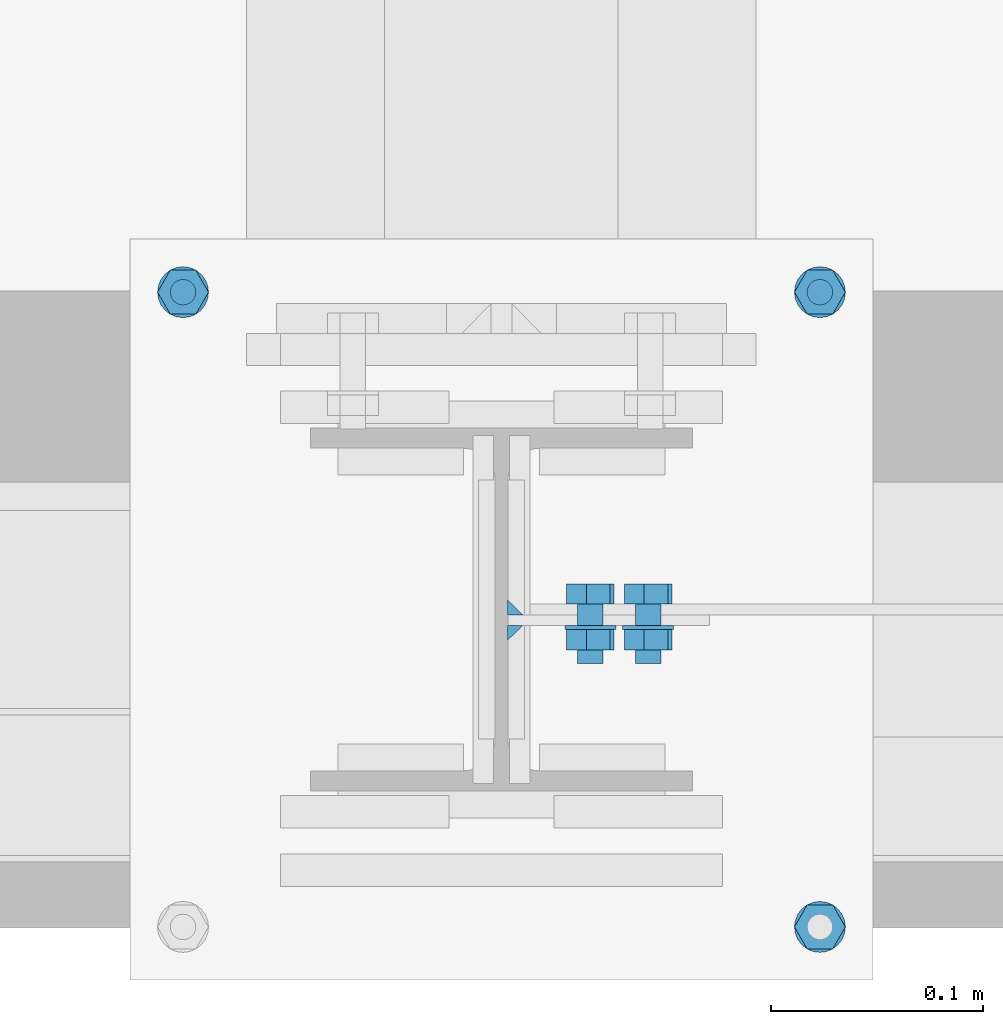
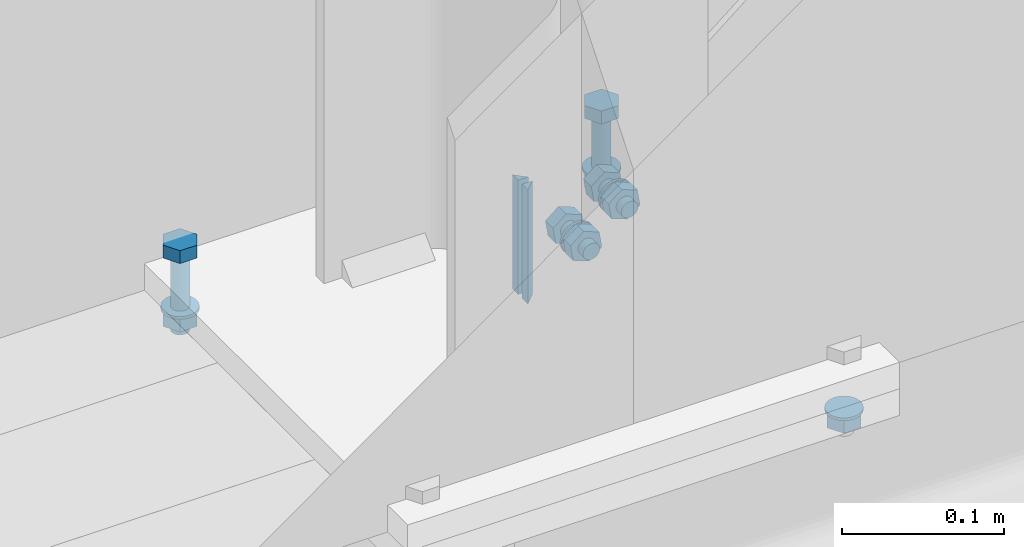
# One storey, part 51 of 66: 18 mechanical fasteners, 2 fasteners.
"""IFC4 building model written with IfcOpenShell, lengths in metres."""

import ifcopenshell
import ifcopenshell.guid

model = None  # the IFC model being written
_history = None  # IfcOwnerHistory: only IFC2X3 demands one
_inside = {}  # id of a spatial element -> (the spatial element, [elements in it])
_under = {}  # id of a project, library or spatial element -> (it, [spatial elements below it])
_declared = {}  # id of a project -> (the project, [libraries it declares])
_typed = {}  # id of a type object -> (the type object, [elements of that type])
_made_of = {}  # id of a material, layer set ... -> (it, [elements and type objects made of it])


def new_model(schema):
    """Start an empty IFC model of exactly this schema.

    Asked for "IFC4X3", IfcOpenShell would pick the latest addendum, in which some entities
    have other attributes; the version numbers below select the first issue.
    IFC2X3 requires an IfcOwnerHistory on every rooted entity: one is made here for all.
    """
    global model, _history
    if schema == "IFC4X3":
        model = ifcopenshell.file(schema_version=(4, 3, 0, 0))
    else:
        model = ifcopenshell.file(schema=schema)
    _inside.clear()
    _under.clear()
    _declared.clear()
    _typed.clear()
    _made_of.clear()
    _history = None
    if model.schema == "IFC2X3":
        org = make("IfcOrganization", Name="unknown")
        user = make(
            "IfcPersonAndOrganization",
            ThePerson=make("IfcPerson", FamilyName="unknown"),
            TheOrganization=org,
        )
        app = make(
            "IfcApplication",
            ApplicationDeveloper=org,
            Version="unknown",
            ApplicationFullName="unknown",
            ApplicationIdentifier="unknown",
        )
        _history = make(
            "IfcOwnerHistory",
            OwningUser=user,
            OwningApplication=app,
            ChangeAction="ADDED",
            CreationDate=0,
        )
    return model


def make(cls, **values):
    """One entity of the class cls with the attributes given. An attribute that is None is left unset."""
    return model.create_entity(
        cls, **{name: value for name, value in values.items() if value is not None}
    )


def rooted(cls, **values):
    """An entity with a GlobalId (a new one), such as an element, a storey or a relation."""
    return make(cls, GlobalId=ifcopenshell.guid.new(), OwnerHistory=_history, **values)


def si_unit(unit_type, name, prefix=None):
    """IfcSIUnit, for example si_unit("LENGTHUNIT", "METRE", prefix="MILLI")."""
    return make("IfcSIUnit", UnitType=unit_type, Prefix=prefix, Name=name)


def assignment(units):
    """IfcUnitAssignment: the units of a project."""
    return None if units is None else make("IfcUnitAssignment", Units=units)


def point(xyz):
    """IfcCartesianPoint."""
    return None if xyz is None else make("IfcCartesianPoint", Coordinates=xyz)


def direction(xyz):
    """IfcDirection."""
    return None if xyz is None else make("IfcDirection", DirectionRatios=xyz)


def frame(location, z_axis=None, x_axis=None):
    """IfcAxis2Placement3D, a coordinate frame: its origin and axes. An axis left out is left unset."""
    return make(
        "IfcAxis2Placement3D",
        Location=point(location),
        Axis=direction(z_axis),
        RefDirection=direction(x_axis),
    )


def origin_with_axes():
    """The frame at (0, 0, 0) with the z axis (0, 0, 1) and the x axis (1, 0, 0) written out."""
    return frame((0.0, 0.0, 0.0), z_axis=(0.0, 0.0, 1.0), x_axis=(1.0, 0.0, 0.0))


def place(relative_to, where):
    """IfcLocalPlacement: puts the frame where relative to a parent placement (None: the world)."""
    return make(
        "IfcLocalPlacement", PlacementRelTo=relative_to, RelativePlacement=where
    )


def context(
    kind, dimensions, precision=None, world=None, true_north=None, identifier=None
):
    """IfcGeometricRepresentationContext, for example the 3D "Model" context."""
    return make(
        "IfcGeometricRepresentationContext",
        ContextIdentifier=identifier,
        ContextType=kind,
        CoordinateSpaceDimension=dimensions,
        Precision=precision,
        WorldCoordinateSystem=world,
        TrueNorth=true_north,
    )


def project(units=None, contexts=None):
    """IfcProject with its units and contexts."""
    return rooted(
        "IfcProject",
        Name="project",
        RepresentationContexts=contexts,
        UnitsInContext=assignment(units),
    )


def spatial(cls, under=None, at=None, **own):
    """A site, building, storey or space (cls), placed at a placement, below another one or the project."""
    s = rooted(cls, ObjectPlacement=at, **own)
    if under is not None:
        _under.setdefault(under.id(), (under, []))[1].append(s)
    return s


def polyline(points):
    """IfcPolyline through the points."""
    return make("IfcPolyline", Points=[point(p) for p in points])


def outline(outer, holes=None, kind="AREA"):
    """IfcArbitraryClosedProfileDef: a profile drawn as a closed curve; with holes, ...WithVoids."""
    if holes is None:
        return make("IfcArbitraryClosedProfileDef", ProfileType=kind, OuterCurve=outer)
    return make(
        "IfcArbitraryProfileDefWithVoids",
        ProfileType=kind,
        OuterCurve=outer,
        InnerCurves=holes,
    )


def extrude(swept, where, along, depth):
    """IfcExtrudedAreaSolid: the profile swept, set in the frame where, extruded along a direction by depth."""
    return make(
        "IfcExtrudedAreaSolid",
        SweptArea=swept,
        Position=where,
        ExtrudedDirection=direction(along),
        Depth=depth,
    )


def shape(context_of_items, identifier, shape_type, items):
    """IfcShapeRepresentation: the items that make up one representation, for example the "Body"."""
    return make(
        "IfcShapeRepresentation",
        ContextOfItems=context_of_items,
        RepresentationIdentifier=identifier,
        RepresentationType=shape_type,
        Items=items,
    )


def made_of(thing, what):
    """Note that an element or type object is made of a material, layer set ...; save() writes the relation."""
    if what is not None:
        _made_of.setdefault(what.id(), (what, []))[1].append(thing)
    return thing


def type_object(cls, material=None, **own):
    """A type object (cls), such as IfcWallType, which elements share."""
    return made_of(rooted(cls, **own), material)


def element(
    cls,
    number,
    at=None,
    inside=None,
    cuts=None,
    type_object=None,
    material=None,
    context=None,
    identifier="Body",
    shape_type=None,
    held_by="IfcProductDefinitionShape",
    body=None,
    shapes=None,
    **own,
):
    """One element of the class cls, such as IfcWall. Its Tag is "e" and its number.

    at: its placement. inside: the storey or other place that contains it. cuts: it is an
    opening in that element (IfcRelVoidsElement). A single representation is given by context,
    identifier, shape_type and body (its items); several are given by shapes. held_by: the class
    of the entity that holds the representations. save() writes the other relations.
    """
    e = rooted(cls, Tag="e%d" % number, ObjectPlacement=at, **own)
    if body is not None:
        shapes = [shape(context, identifier, shape_type, body)]
    if shapes is not None:
        e.Representation = make(held_by, Representations=shapes)
    if inside is not None:
        _inside.setdefault(inside.id(), (inside, []))[1].append(e)
    if cuts is not None:
        rooted(
            "IfcRelVoidsElement", RelatingBuildingElement=cuts, RelatedOpeningElement=e
        )
    if type_object is not None:
        _typed.setdefault(type_object.id(), (type_object, []))[1].append(e)
    return made_of(e, material)


def aggregate(whole, parts):
    """IfcRelAggregates: a whole, such as a stair, and the parts it consists of."""
    return rooted("IfcRelAggregates", RelatingObject=whole, RelatedObjects=parts)


def save(model, path):
    """Write the relations noted so far, then the file.

    IfcRelAggregates (storeys below a building ...), IfcRelContainedInSpatialStructure (elements
    in a storey), IfcRelDefinesByType, IfcRelAssociatesMaterial and IfcRelDeclares: one each for
    every whole, place, type object, material and project.
    """
    for whole, parts in _under.values():
        aggregate(whole, parts)
    for where, things in _inside.values():
        rooted(
            "IfcRelContainedInSpatialStructure",
            RelatedElements=things,
            RelatingStructure=where,
        )
    for kind, things in _typed.values():
        rooted("IfcRelDefinesByType", RelatedObjects=things, RelatingType=kind)
    for what, things in _made_of.values():
        rooted("IfcRelAssociatesMaterial", RelatedObjects=things, RelatingMaterial=what)
    for by, libraries in _declared.values():
        rooted("IfcRelDeclares", RelatingContext=by, RelatedDefinitions=libraries)
    model.write(path)


model = new_model("IFC4")

# Units and contexts
model_context = context("Model", 3, precision=1e-05, world=origin_with_axes())
ifc_project = project(units=[si_unit("LENGTHUNIT", "METRE"), si_unit("AREAUNIT", "SQUARE_METRE"), si_unit("VOLUMEUNIT", "CUBIC_METRE"), si_unit("MASSUNIT", "GRAM", prefix="KILO"), si_unit("TIMEUNIT", "SECOND"), si_unit("PLANEANGLEUNIT", "RADIAN"), si_unit("SOLIDANGLEUNIT", "STERADIAN"), si_unit("THERMODYNAMICTEMPERATUREUNIT", "DEGREE_CELSIUS")], contexts=[model_context])

# Site, building, storey
placement_1 = place(None, origin_with_axes())
site = spatial("IfcSite", under=ifc_project, at=placement_1, Name="Italia", CompositionType="ELEMENT")
building = spatial("IfcBuilding", under=site, at=placement_1, Name="Uffici", CompositionType="ELEMENT")
storey_placement = place(None, frame((0.0, 0.0, 3.299999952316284), z_axis=(0.0, 0.0, 1.0), x_axis=(1.0, 0.0, 0.0)))
storey = spatial("IfcBuildingStorey", under=building, at=storey_placement, Name="Storey 1", CompositionType="ELEMENT", Elevation=3.299999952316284)

# Mechanical fasteners
mechanical_fastener_type_1 = type_object("IfcMechanicalFastenerType", Name="Collegamenti 0101_0201 0102_0202 0103_0203 0104_0204 0105_0205", PredefinedType="BOLT")
placement_2 = place(placement_1, origin_with_axes())
mechanical_fastener_1_placement = place(placement_2, origin_with_axes())
element("IfcMechanicalFastener", 1, at=mechanical_fastener_1_placement, inside=storey, type_object=mechanical_fastener_type_1, Name="Collegamenti 0101_0201 0102_0202 0103_0203 0104_0204 0105_0205", NominalDiameter=0.0119998, context=model_context, shape_type="SweptSolid", body=[
    extrude(outline(polyline([(0.0, 0.0), (0.0, 0.0120001), (0.0103923, 0.0179996), (0.0207846, 0.0120001), (0.0207846, 0.0), (0.0103923, -0.00599957), (0.0, 0.0)])), frame((9.611, -0.159892, 3.2684), z_axis=(0.0, 0.0, 1.0), x_axis=(0.0, 1.0, 0.0)), (0.0, 0.0, 1.0), 0.00959992),
])
mechanical_fastener_type_2 = type_object("IfcMechanicalFastenerType", Name="Collegamenti 0101_0201 0102_0202 0103_0203 0104_0204 0105_0205", PredefinedType="BOLT")
mechanical_fastener_2_placement = place(placement_2, origin_with_axes())
element("IfcMechanicalFastener", 2, at=mechanical_fastener_2_placement, inside=storey, type_object=mechanical_fastener_type_2, Name="Collegamenti 0101_0201 0102_0202 0103_0203 0104_0204 0105_0205", NominalDiameter=0.024, context=model_context, shape_type="SweptSolid", body=[
    extrude(outline(polyline([(0.0, 0.0), (-0.000408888, -0.00310612), (-0.00160769, -0.00599957), (-0.00351471, -0.00848484), (-0.006, -0.0103922), (-0.00889416, -0.011591), (-0.012, -0.0120001), (-0.0151058, -0.011591), (-0.018, -0.0103922), (-0.0204853, -0.00848484), (-0.0223923, -0.00599957), (-0.0235911, -0.00310612), (-0.024, 0.0), (-0.0235911, 0.00310612), (-0.0223923, 0.00599957), (-0.0204853, 0.00848484), (-0.018, 0.0103922), (-0.0151058, 0.011591), (-0.012, 0.0120001), (-0.00889416, 0.011591), (-0.006, 0.0103922), (-0.00351471, 0.00848484), (-0.00160769, 0.00599957), (-0.000408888, 0.00310612), (0.0, 0.0)])), frame((9.605, -0.1375, 3.278), z_axis=(0.0, 0.0, 1.0), x_axis=(0.0, 1.0, 0.0)), (0.0, 0.0, 1.0), 0.00200009),
])
mechanical_fastener_type_3 = type_object("IfcMechanicalFastenerType", Name="Collegamenti 0101_0201 0102_0202 0103_0203 0104_0204 0105_0205", PredefinedType="BOLT")
mechanical_fastener_3_placement = place(placement_2, origin_with_axes())
element("IfcMechanicalFastener", 3, at=mechanical_fastener_3_placement, inside=storey, type_object=mechanical_fastener_type_3, Name="Collegamenti 0101_0201 0102_0202 0103_0203 0104_0204 0105_0205", NominalDiameter=0.0119998, context=model_context, shape_type="SweptSolid", body=[
    extrude(outline(polyline([(0.0, 0.0), (0.0, 0.0120001), (0.0103923, 0.0179996), (0.0207846, 0.0120001), (0.0207846, 0.0), (0.0103923, -0.00599957), (0.0, 0.0)])), frame((9.311, 0.139108, 3.32), z_axis=(0.0, 0.0, 1.0), x_axis=(0.0, 1.0, 0.0)), (0.0, 0.0, 1.0), 0.00959992),
])
mechanical_fastener_type_4 = type_object("IfcMechanicalFastenerType", Name="Collegamenti 0101_0201 0102_0202 0103_0203 0104_0204 0105_0205", PredefinedType="BOLT")
mechanical_fastener_4_placement = place(placement_2, origin_with_axes())
element("IfcMechanicalFastener", 4, at=mechanical_fastener_4_placement, inside=storey, type_object=mechanical_fastener_type_4, Name="Collegamenti 0101_0201 0102_0202 0103_0203 0104_0204 0105_0205", NominalDiameter=0.012, context=model_context, shape_type="SweptSolid", body=[
    extrude(outline(polyline([(0.0, 0.0), (-0.000204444, -0.00155258), (-0.000803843, -0.00300026), (-0.00175735, -0.0042429), (-0.00299999, -0.00519657), (-0.00444709, -0.00579548), (-0.006, -0.00599957), (-0.00755291, -0.00579548), (-0.009, -0.00519657), (-0.0102426, -0.0042429), (-0.0111962, -0.00300026), (-0.0117956, -0.00155258), (-0.012, 0.0), (-0.0117956, 0.00155258), (-0.0111962, 0.00300026), (-0.0102426, 0.0042429), (-0.009, 0.00519657), (-0.00755291, 0.00579548), (-0.006, 0.00599957), (-0.00444709, 0.00579548), (-0.00299999, 0.00519657), (-0.00175735, 0.0042429), (-0.000803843, 0.00300026), (-0.000204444, 0.00155258), (0.0, 0.0)])), frame((9.305, 0.1555, 3.262), z_axis=(0.0, 0.0, 1.0), x_axis=(0.0, 1.0, 0.0)), (0.0, 0.0, 1.0), 0.0580001),
])
mechanical_fastener_type_5 = type_object("IfcMechanicalFastenerType", Name="Collegamenti 0101_0201 0102_0202 0103_0203 0104_0204 0105_0205", PredefinedType="BOLT")
mechanical_fastener_5_placement = place(placement_2, origin_with_axes())
element("IfcMechanicalFastener", 5, at=mechanical_fastener_5_placement, inside=storey, type_object=mechanical_fastener_type_5, Name="Collegamenti 0101_0201 0102_0202 0103_0203 0104_0204 0105_0205", NominalDiameter=0.0119998, context=model_context, shape_type="SweptSolid", body=[
    extrude(outline(polyline([(0.0, 0.0), (0.0, 0.0120001), (0.0103923, 0.0179996), (0.0207846, 0.0120001), (0.0207846, 0.0), (0.0103923, -0.00599957), (0.0, 0.0)])), frame((9.311, 0.139108, 3.2684), z_axis=(0.0, 0.0, 1.0), x_axis=(0.0, 1.0, 0.0)), (0.0, 0.0, 1.0), 0.00959992),
])
mechanical_fastener_type_6 = type_object("IfcMechanicalFastenerType", Name="Collegamenti 0101_0201 0102_0202 0103_0203 0104_0204 0105_0205", PredefinedType="BOLT")
mechanical_fastener_6_placement = place(placement_2, origin_with_axes())
element("IfcMechanicalFastener", 6, at=mechanical_fastener_6_placement, inside=storey, type_object=mechanical_fastener_type_6, Name="Collegamenti 0101_0201 0102_0202 0103_0203 0104_0204 0105_0205", NominalDiameter=0.024, context=model_context, shape_type="SweptSolid", body=[
    extrude(outline(polyline([(0.0, 0.0), (-0.000408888, -0.00310612), (-0.00160769, -0.00599957), (-0.00351471, -0.00848484), (-0.006, -0.0103922), (-0.00889416, -0.011591), (-0.012, -0.0120001), (-0.0151058, -0.011591), (-0.018, -0.0103922), (-0.0204853, -0.00848484), (-0.0223923, -0.00599957), (-0.0235911, -0.00310612), (-0.024, 0.0), (-0.0235911, 0.00310612), (-0.0223923, 0.00599957), (-0.0204853, 0.00848484), (-0.018, 0.0103922), (-0.0151058, 0.011591), (-0.012, 0.0120001), (-0.00889416, 0.011591), (-0.006, 0.0103922), (-0.00351471, 0.00848484), (-0.00160769, 0.00599957), (-0.000408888, 0.00310612), (0.0, 0.0)])), frame((9.305, 0.1615, 3.278), z_axis=(0.0, 0.0, 1.0), x_axis=(0.0, 1.0, 0.0)), (0.0, 0.0, 1.0), 0.00200009),
])
mechanical_fastener_type_7 = type_object("IfcMechanicalFastenerType", Name="Collegamenti 0101_0201 0102_0202 0103_0203 0104_0204 0105_0205", PredefinedType="BOLT")
mechanical_fastener_7_placement = place(placement_2, origin_with_axes())
element("IfcMechanicalFastener", 7, at=mechanical_fastener_7_placement, inside=storey, type_object=mechanical_fastener_type_7, Name="Collegamenti 0101_0201 0102_0202 0103_0203 0104_0204 0105_0205", NominalDiameter=0.0119998, context=model_context, shape_type="SweptSolid", body=[
    extrude(outline(polyline([(0.0, 0.0), (0.0, 0.0120001), (0.0103923, 0.0179996), (0.0207846, 0.0120001), (0.0207846, 0.0), (0.0103923, -0.00599957), (0.0, 0.0)])), frame((9.611, 0.139108, 3.32), z_axis=(0.0, 0.0, 1.0), x_axis=(0.0, 1.0, 0.0)), (0.0, 0.0, 1.0), 0.00959992),
])
mechanical_fastener_type_8 = type_object("IfcMechanicalFastenerType", Name="Collegamenti 0101_0201 0102_0202 0103_0203 0104_0204 0105_0205", PredefinedType="BOLT")
mechanical_fastener_8_placement = place(placement_2, origin_with_axes())
element("IfcMechanicalFastener", 8, at=mechanical_fastener_8_placement, inside=storey, type_object=mechanical_fastener_type_8, Name="Collegamenti 0101_0201 0102_0202 0103_0203 0104_0204 0105_0205", NominalDiameter=0.012, context=model_context, shape_type="SweptSolid", body=[
    extrude(outline(polyline([(0.0, 0.0), (-0.000204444, -0.00155258), (-0.000803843, -0.00300026), (-0.00175735, -0.0042429), (-0.00299999, -0.00519657), (-0.00444709, -0.00579548), (-0.006, -0.00599957), (-0.00755291, -0.00579548), (-0.009, -0.00519657), (-0.0102426, -0.0042429), (-0.0111962, -0.00300026), (-0.0117956, -0.00155258), (-0.012, 0.0), (-0.0117956, 0.00155258), (-0.0111962, 0.00300026), (-0.0102426, 0.0042429), (-0.009, 0.00519657), (-0.00755291, 0.00579548), (-0.006, 0.00599957), (-0.00444709, 0.00579548), (-0.00299999, 0.00519657), (-0.00175735, 0.0042429), (-0.000803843, 0.00300026), (-0.000204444, 0.00155258), (0.0, 0.0)])), frame((9.605, 0.1555, 3.262), z_axis=(0.0, 0.0, 1.0), x_axis=(0.0, 1.0, 0.0)), (0.0, 0.0, 1.0), 0.0580001),
])
mechanical_fastener_type_9 = type_object("IfcMechanicalFastenerType", Name="Collegamenti 0101_0201 0102_0202 0103_0203 0104_0204 0105_0205", PredefinedType="BOLT")
mechanical_fastener_9_placement = place(placement_2, origin_with_axes())
element("IfcMechanicalFastener", 9, at=mechanical_fastener_9_placement, inside=storey, type_object=mechanical_fastener_type_9, Name="Collegamenti 0101_0201 0102_0202 0103_0203 0104_0204 0105_0205", NominalDiameter=0.0119998, context=model_context, shape_type="SweptSolid", body=[
    extrude(outline(polyline([(0.0, 0.0), (0.0, 0.0120001), (0.0103923, 0.0179996), (0.0207846, 0.0120001), (0.0207846, 0.0), (0.0103923, -0.00599957), (0.0, 0.0)])), frame((9.611, 0.139108, 3.2684), z_axis=(0.0, 0.0, 1.0), x_axis=(0.0, 1.0, 0.0)), (0.0, 0.0, 1.0), 0.00959992),
])
mechanical_fastener_type_10 = type_object("IfcMechanicalFastenerType", Name="Collegamenti 0101_0201 0102_0202 0103_0203 0104_0204 0105_0205", PredefinedType="BOLT")
mechanical_fastener_10_placement = place(placement_2, origin_with_axes())
element("IfcMechanicalFastener", 10, at=mechanical_fastener_10_placement, inside=storey, type_object=mechanical_fastener_type_10, Name="Collegamenti 0101_0201 0102_0202 0103_0203 0104_0204 0105_0205", NominalDiameter=0.024, context=model_context, shape_type="SweptSolid", body=[
    extrude(outline(polyline([(0.0, 0.0), (-0.000408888, -0.00310612), (-0.00160769, -0.00599957), (-0.00351471, -0.00848484), (-0.006, -0.0103922), (-0.00889416, -0.011591), (-0.012, -0.0120001), (-0.0151058, -0.011591), (-0.018, -0.0103922), (-0.0204853, -0.00848484), (-0.0223923, -0.00599957), (-0.0235911, -0.00310612), (-0.024, 0.0), (-0.0235911, 0.00310612), (-0.0223923, 0.00599957), (-0.0204853, 0.00848484), (-0.018, 0.0103922), (-0.0151058, 0.011591), (-0.012, 0.0120001), (-0.00889416, 0.011591), (-0.006, 0.0103922), (-0.00351471, 0.00848484), (-0.00160769, 0.00599957), (-0.000408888, 0.00310612), (0.0, 0.0)])), frame((9.605, 0.1615, 3.278), z_axis=(0.0, 0.0, 1.0), x_axis=(0.0, 1.0, 0.0)), (0.0, 0.0, 1.0), 0.00200009),
])
mechanical_fastener_type_11 = type_object("IfcMechanicalFastenerType", Name="Collegamento 0104_0205", PredefinedType="BOLT")
mechanical_fastener_11_placement = place(placement_2, origin_with_axes())
element("IfcMechanicalFastener", 11, at=mechanical_fastener_11_placement, inside=storey, type_object=mechanical_fastener_type_11, Name="Collegamento 0104_0205", NominalDiameter=0.0119995, context=model_context, shape_type="SweptSolid", body=[
    extrude(outline(polyline([(0.0, 0.0), (0.00932503, -0.00755262), (0.0205288, -0.00325346), (0.0224066, 0.0085988), (0.0130816, 0.0161514), (0.00187874, 0.011852), (0.0, 0.0)])), frame((9.50806, 0.0025, 3.35532), z_axis=(0.0, 1.0, 0.0), x_axis=(-1.0, 0.0, 0.0)), (0.0, 0.0, 1.0), 0.0096),
])
mechanical_fastener_type_12 = type_object("IfcMechanicalFastenerType", Name="Collegamento 0104_0205", PredefinedType="BOLT")
mechanical_fastener_12_placement = place(placement_2, origin_with_axes())
element("IfcMechanicalFastener", 12, at=mechanical_fastener_12_placement, inside=storey, type_object=mechanical_fastener_type_12, Name="Collegamento 0104_0205", NominalDiameter=0.012, context=model_context, shape_type="SweptSolid", body=[
    extrude(outline(polyline([(0.0, 0.0), (-0.000204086, -0.00155282), (-0.000802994, -0.00300002), (-0.00175667, -0.00424266), (-0.00299931, -0.00519609), (-0.00444698, -0.00579548), (-0.00599957, -0.00600004), (-0.00755215, -0.00579548), (-0.00899982, -0.00519609), (-0.0102425, -0.00424266), (-0.0111961, -0.00300002), (-0.011795, -0.00155282), (-0.0119991, 0.0), (-0.011795, 0.00155282), (-0.0111961, 0.00300002), (-0.0102425, 0.00424266), (-0.00899982, 0.00519609), (-0.00755215, 0.00579548), (-0.00599957, 0.00600004), (-0.00444698, 0.00579548), (-0.00299931, 0.00519609), (-0.00175667, 0.00424266), (-0.000802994, 0.00300002), (-0.000204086, 0.00155282), (0.0, 0.0)])), frame((9.49086, -0.0255, 3.35962), z_axis=(0.0, 1.0, 0.0), x_axis=(-1.0, 0.0, 0.0)), (0.0, 0.0, 1.0), 0.028),
])
mechanical_fastener_type_13 = type_object("IfcMechanicalFastenerType", Name="Collegamento 0104_0205", PredefinedType="BOLT")
mechanical_fastener_13_placement = place(placement_2, origin_with_axes())
element("IfcMechanicalFastener", 13, at=mechanical_fastener_13_placement, inside=storey, type_object=mechanical_fastener_type_13, Name="Collegamento 0104_0205", NominalDiameter=0.0119995, context=model_context, shape_type="SweptSolid", body=[
    extrude(outline(polyline([(0.0, 0.0), (0.00932503, -0.00755262), (0.0205288, -0.00325346), (0.0224066, 0.0085988), (0.0130816, 0.0161514), (0.00187874, 0.011852), (0.0, 0.0)])), frame((9.50806, -0.0191, 3.35532), z_axis=(0.0, 1.0, 0.0), x_axis=(-1.0, 0.0, 0.0)), (0.0, 0.0, 1.0), 0.0096),
])
mechanical_fastener_type_14 = type_object("IfcMechanicalFastenerType", Name="Collegamento 0104_0205", PredefinedType="BOLT")
mechanical_fastener_14_placement = place(placement_2, origin_with_axes())
element("IfcMechanicalFastener", 14, at=mechanical_fastener_14_placement, inside=storey, type_object=mechanical_fastener_type_14, Name="Collegamento 0104_0205", NominalDiameter=0.024, context=model_context, shape_type="SweptSolid", body=[
    extrude(outline(polyline([(0.0, 0.0), (-0.000409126, -0.00310588), (-0.00160789, -0.00600004), (-0.00351524, -0.00848532), (-0.00600052, -0.0103922), (-0.00889397, -0.0115912), (-0.0120001, -0.0120001), (-0.0151062, -0.0115912), (-0.0179996, -0.0103922), (-0.0204849, -0.00848532), (-0.0223923, -0.00600004), (-0.023591, -0.00310588), (-0.0240002, 0.0), (-0.023591, 0.00310588), (-0.0223923, 0.00600004), (-0.0204849, 0.00848532), (-0.0179996, 0.0103922), (-0.0151062, 0.0115912), (-0.0120001, 0.0120001), (-0.00889397, 0.0115912), (-0.00600052, 0.0103922), (-0.00351524, 0.00848532), (-0.00160789, 0.00600004), (-0.000409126, 0.00310588), (0.0, 0.0)])), frame((9.48486, -0.0095, 3.35962), z_axis=(0.0, 1.0, 0.0), x_axis=(-1.0, 0.0, 0.0)), (0.0, 0.0, 1.0), 0.002),
])
mechanical_fastener_type_15 = type_object("IfcMechanicalFastenerType", Name="Collegamento 0104_0205", PredefinedType="BOLT")
mechanical_fastener_15_placement = place(placement_2, origin_with_axes())
element("IfcMechanicalFastener", 15, at=mechanical_fastener_15_placement, inside=storey, type_object=mechanical_fastener_type_15, Name="Collegamento 0104_0205", NominalDiameter=0.0119995, context=model_context, shape_type="SweptSolid", body=[
    extrude(outline(polyline([(0.0, 0.0), (0.00932503, -0.00755286), (0.0205278, -0.00325346), (0.0224066, 0.00859857), (0.0130816, 0.0161514), (0.00187778, 0.011852), (0.0, 0.0)])), frame((9.53526, 0.0025, 3.37735), z_axis=(0.0, 1.0, 0.0), x_axis=(-1.0, 0.0, 0.0)), (0.0, 0.0, 1.0), 0.0096),
])
mechanical_fastener_type_16 = type_object("IfcMechanicalFastenerType", Name="Collegamento 0104_0205", PredefinedType="BOLT")
mechanical_fastener_16_placement = place(placement_2, origin_with_axes())
element("IfcMechanicalFastener", 16, at=mechanical_fastener_16_placement, inside=storey, type_object=mechanical_fastener_type_16, Name="Collegamento 0104_0205", NominalDiameter=0.012, context=model_context, shape_type="SweptSolid", body=[
    extrude(outline(polyline([(0.0, 0.0), (-0.000204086, -0.00155282), (-0.000802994, -0.00300002), (-0.00175667, -0.00424266), (-0.00299931, -0.00519609), (-0.00444698, -0.00579548), (-0.00599957, -0.00600004), (-0.00755215, -0.00579548), (-0.00899982, -0.00519609), (-0.0102425, -0.00424266), (-0.0111961, -0.00300002), (-0.011795, -0.00155282), (-0.0119991, 0.0), (-0.011795, 0.00155282), (-0.0111961, 0.00300002), (-0.0102425, 0.00424266), (-0.00899982, 0.00519609), (-0.00755215, 0.00579548), (-0.00599957, 0.00600004), (-0.00444698, 0.00579548), (-0.00299931, 0.00519609), (-0.00175667, 0.00424266), (-0.000802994, 0.00300002), (-0.000204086, 0.00155282), (0.0, 0.0)])), frame((9.51805, -0.0255, 3.38165), z_axis=(0.0, 1.0, 0.0), x_axis=(-1.0, 0.0, 0.0)), (0.0, 0.0, 1.0), 0.028),
])
mechanical_fastener_type_17 = type_object("IfcMechanicalFastenerType", Name="Collegamento 0104_0205", PredefinedType="BOLT")
mechanical_fastener_17_placement = place(placement_2, origin_with_axes())
element("IfcMechanicalFastener", 17, at=mechanical_fastener_17_placement, inside=storey, type_object=mechanical_fastener_type_17, Name="Collegamento 0104_0205", NominalDiameter=0.0119995, context=model_context, shape_type="SweptSolid", body=[
    extrude(outline(polyline([(0.0, 0.0), (0.00932503, -0.00755286), (0.0205278, -0.00325346), (0.0224066, 0.00859857), (0.0130816, 0.0161514), (0.00187778, 0.011852), (0.0, 0.0)])), frame((9.53526, -0.0191, 3.37735), z_axis=(0.0, 1.0, 0.0), x_axis=(-1.0, 0.0, 0.0)), (0.0, 0.0, 1.0), 0.0096),
])
mechanical_fastener_type_18 = type_object("IfcMechanicalFastenerType", Name="Collegamento 0104_0205", PredefinedType="BOLT")
mechanical_fastener_18_placement = place(placement_2, origin_with_axes())
element("IfcMechanicalFastener", 18, at=mechanical_fastener_18_placement, inside=storey, type_object=mechanical_fastener_type_18, Name="Collegamento 0104_0205", NominalDiameter=0.024, context=model_context, shape_type="SweptSolid", body=[
    extrude(outline(polyline([(0.0, 0.0), (-0.000409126, -0.00310588), (-0.00160789, -0.00600004), (-0.00351524, -0.00848532), (-0.00600052, -0.0103922), (-0.00889397, -0.0115912), (-0.0120001, -0.0120001), (-0.0151062, -0.0115912), (-0.0179996, -0.0103922), (-0.0204849, -0.00848532), (-0.0223923, -0.00600004), (-0.023591, -0.00310588), (-0.0240002, 0.0), (-0.023591, 0.00310588), (-0.0223923, 0.00600004), (-0.0204849, 0.00848532), (-0.0179996, 0.0103922), (-0.0151062, 0.0115912), (-0.0120001, 0.0120001), (-0.00889397, 0.0115912), (-0.00600052, 0.0103922), (-0.00351524, 0.00848532), (-0.00160789, 0.00600004), (-0.000409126, 0.00310588), (0.0, 0.0)])), frame((9.51205, -0.0095, 3.38165), z_axis=(0.0, 1.0, 0.0), x_axis=(-1.0, 0.0, 0.0)), (0.0, 0.0, 1.0), 0.002),
])

# Fasteners
fastener_type_1 = type_object("IfcFastenerType", Name="Collegamento 0104_0205", PredefinedType="WELD")
fastener_1_placement = place(placement_2, origin_with_axes())
element("IfcFastener", 19, at=fastener_1_placement, inside=storey, type_object=fastener_type_1, Name="Collegamento 0104_0205", context=model_context, shape_type="SweptSolid", body=[
    extrude(outline(polyline([(0.0, 0.0), (0.00695816, 0.00717258), (0.00695816, 0.0), (0.0, 0.0)])), frame((9.45795, -0.0144082, 3.413), z_axis=(0.0, 0.0, -1.0), x_axis=(0.0, 1.0, 0.0)), (0.0, 0.0, 1.0), 0.0861003),
])
fastener_type_2 = type_object("IfcFastenerType", Name="Collegamento 0104_0205", PredefinedType="WELD")
fastener_2_placement = place(placement_2, origin_with_axes())
element("IfcFastener", 20, at=fastener_2_placement, inside=storey, type_object=fastener_type_2, Name="Collegamento 0104_0205", context=model_context, shape_type="SweptSolid", body=[
    extrude(outline(polyline([(0.0, 0.0), (-0.00695816, -0.00717258), (-0.00695816, 0.0), (0.0, 0.0)])), frame((9.45795, 0.00440816, 3.3269), z_axis=(0.0, 0.0, 1.0), x_axis=(0.0, 1.0, 0.0)), (0.0, 0.0, 1.0), 0.0861008),
])

save(model, "model.ifc")
